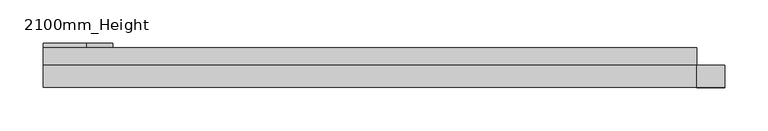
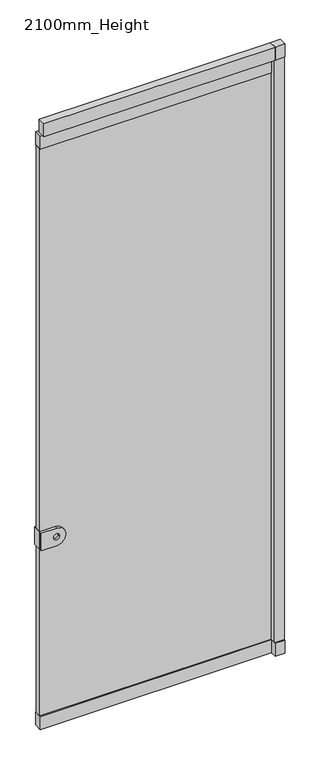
"""IFC4 building model written with IfcOpenShell, lengths in millimetres: flow terminal geometry, Plumbing_Fixtures_Toilet_Cubicle_End_Adjacent_Wall : 2100mm_Height."""

from ifc_helpers import new_model, si_unit, point, frame, frame_2d, origin, place, context, project, spatial, polyline, circle_curve, trimmed, segment, composite_curve, outline, extrude, source, transform, mapped, element, save


def flow_terminal_2100mm_height_12b2e6eb(model_context):
    return source(origin(), model_context, "Body", "SweptSolid", [
        extrude(outline(composite_curve([segment(trimmed(circle_curve(frame_2d((800.0, -339.6209866)), 30.0913679), [point((769.9086321, -339.6209866))], [point((830.0913679, -339.6209866))], False, "CARTESIAN"), True, "CONTINUOUS"), segment(polyline([(830.0913679, -339.6209866), (830.0913679, -389.5689294), (769.9086321, -389.5689294), (769.9086321, -339.6209866)]), True, "CONTINUOUS")], self_intersect=False), holes=[composite_curve([segment(trimmed(circle_curve(frame_2d((800.0, -339.6209866)), 10.0), [point((800.0, -329.6209866))], [point((800.0, -349.6209866))], True, "CARTESIAN"), True, "CONTINUOUS"), segment(trimmed(circle_curve(frame_2d((800.0, -339.6209866)), 10.0), [point((800.0, -349.6209866))], [point((800.0, -329.6209866))], True, "CARTESIAN"), True, "CONTINUOUS")], self_intersect=False)]), frame((0.0, -1798.0, 0.0), z_axis=(0.0, 1.0, 0.0), x_axis=(0.0, 0.0, 1.0)), (0.0, 0.0, 1.0), 36.0),
        extrude(outline(polyline([(365.4310706, -1790.0), (-389.5689294, -1790.0), (-389.5689294, -1770.0), (365.4310706, -1770.0), (365.4310706, -1790.0)])), frame((0.0, 0.0, 195.0), z_axis=(0.0, 0.0, 1.0), x_axis=(1.0, 0.0, 0.0)), (0.0, 0.0, 1.0), 1955.0),
        extrude(outline(polyline([(365.4310706, -1767.0), (365.4310706, -1793.0), (-389.5689294, -1793.0), (-389.5689294, -1767.0), (365.4310706, -1767.0)])), frame((0.0, 0.0, 2150.0), z_axis=(0.0, 0.0, 1.0), x_axis=(1.0, 0.0, 0.0)), (0.0, 0.0, 1.0), 45.0),
        extrude(outline(polyline([(365.4310706, -1767.0), (365.4310706, -1793.0), (-389.5689294, -1793.0), (-389.5689294, -1767.0), (365.4310706, -1767.0)])), frame((0.0, 0.0, 150.0), z_axis=(0.0, 0.0, 1.0), x_axis=(1.0, 0.0, 0.0)), (0.0, 0.0, 1.0), 45.0),
        extrude(outline(polyline([(365.4310706, -1813.0), (365.4310706, -1787.2947936), (397.9310706, -1787.2947936), (397.9310706, -1813.0), (365.4310706, -1813.0)])), frame((0.0, 0.0, 2205.0), z_axis=(0.0, 0.0, 1.0), x_axis=(1.0, 0.0, 0.0)), (0.0, 0.0, 1.0), 45.0),
        extrude(outline(polyline([(365.4310706, -1813.0), (365.4310706, -1787.2947936), (397.9310706, -1787.2947936), (397.9310706, -1813.0), (365.4310706, -1813.0)])), frame((0.0, 0.0, 150.0), z_axis=(0.0, 0.0, 1.0), x_axis=(1.0, 0.0, 0.0)), (0.0, 0.0, 1.0), 45.0),
        extrude(outline(polyline([(365.4310706, -1813.0), (-389.5689294, -1813.0), (-389.5689294, -1787.2947936), (365.4310706, -1787.2947936), (365.4310706, -1813.0)])), frame((0.0, 0.0, 2205.0), z_axis=(0.0, 0.0, 1.0), x_axis=(1.0, 0.0, 0.0)), (0.0, 0.0, 1.0), 45.0),
        extrude(outline(polyline([(365.4310706, -1810.0), (365.4310706, -1790.0), (397.9310706, -1790.0), (397.9310706, -1810.0), (365.4310706, -1810.0)])), frame((0.0, 0.0, 195.0), z_axis=(0.0, 0.0, 1.0), x_axis=(1.0, 0.0, 0.0)), (0.0, 0.0, 1.0), 2010.0),
    ])


if __name__ == "__main__":
    model = new_model("IFC4")
    model_context = context("Model", 3, world=origin())
    ifc_project = project(units=[si_unit("LENGTHUNIT", "METRE", prefix="MILLI")], contexts=[model_context])
    site = spatial("IfcSite", under=ifc_project)
    building = spatial("IfcBuilding", under=site)
    placement = place(None, origin())
    flow_terminal_2100mm_height_shape = flow_terminal_2100mm_height_12b2e6eb(model_context)
    element("IfcFlowTerminal", 1, ObjectType="Plumbing_Fixtures_Toilet_Cubicle_End_Adjacent_Wall : 2100mm_Height", at=placement, inside=building, context=model_context, shape_type="MappedRepresentation", body=[
        mapped(flow_terminal_2100mm_height_shape, transform((0.0, 0.0, 0.0), x_axis=(1.0, 0.0, 0.0), y_axis=(0.0, 1.0, 0.0), z_axis=(0.0, 0.0, 1.0))),
    ])
    save(model, "model.ifc")
